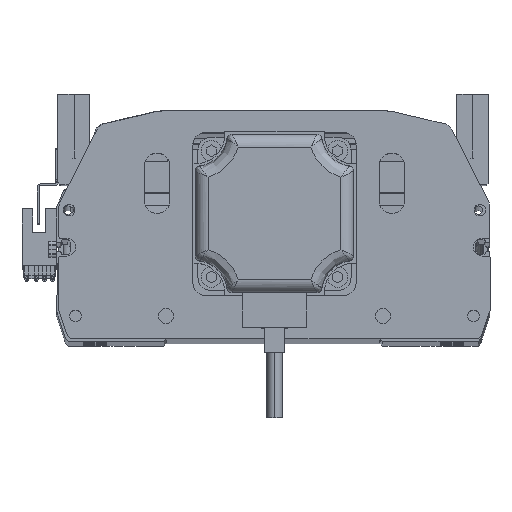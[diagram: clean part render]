
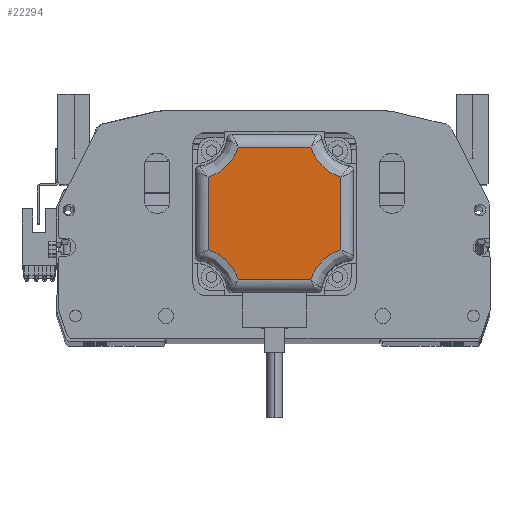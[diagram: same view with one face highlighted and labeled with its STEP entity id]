
A CAD part, top view. The second image highlights one B-rep face of the part: STEP entity #22294.
In plain terms, the highlighted planar face has unit normal (0, 0, 1) as drawn and (0, 0, -1) by its records, which use the part's own axes.
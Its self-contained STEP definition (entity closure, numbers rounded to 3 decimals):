
#265 =( BOUNDED_CURVE ( )  B_SPLINE_CURVE ( 3, ( #33113, #40881, #17793, #40548 ),
 .UNSPECIFIED., .F., .T. ) 
 B_SPLINE_CURVE_WITH_KNOTS ( ( 4, 4 ),
 ( 0., 1. ),
 .UNSPECIFIED. ) 
 CURVE ( )  GEOMETRIC_REPRESENTATION_ITEM ( )  RATIONAL_B_SPLINE_CURVE ( ( 1., 0.92, 0.92, 1. ) ) 
 REPRESENTATION_ITEM ( '' )  );
#589 = VERTEX_POINT ( 'NONE', #41060 ) ;
#2221 = CARTESIAN_POINT ( 'NONE',  ( 15.5, 26., -116.5 ) ) ;
#2481 = CARTESIAN_POINT ( 'NONE',  ( -26., 14.229, -116.5 ) ) ;
#2668 = CARTESIAN_POINT ( 'NONE',  ( -14.229, -26., -116.5 ) ) ;
#3090 = EDGE_CURVE ( 'NONE', #32536, #26443, #35548, .T. ) ;
#7077 = DIRECTION ( 'NONE',  ( 0., 0., 1. ) ) ;
#8601 = CARTESIAN_POINT ( 'NONE',  ( 26., -14.229, -116.5 ) ) ;
#8989 = FACE_OUTER_BOUND ( 'NONE', #40775, .T. ) ;
#9426 = EDGE_CURVE ( 'NONE', #27892, #43716, #265, .T. ) ;
#10394 = CARTESIAN_POINT ( 'NONE',  ( -26., -14.229, -116.5 ) ) ;
#10414 = ORIENTED_EDGE ( 'NONE', *, *, #28077, .F. ) ;
#10837 = EDGE_CURVE ( 'NONE', #26443, #27892, #33948, .T. ) ;
#11767 = CARTESIAN_POINT ( 'NONE',  ( -14.229, 26., -116.5 ) ) ;
#11972 = CARTESIAN_POINT ( 'NONE',  ( -26., 15.5, -116.5 ) ) ;
#12657 =( BOUNDED_CURVE ( )  B_SPLINE_CURVE ( 3, ( #14603, #49695, #26597, #26278 ),
 .UNSPECIFIED., .F., .T. ) 
 B_SPLINE_CURVE_WITH_KNOTS ( ( 4, 4 ),
 ( 0., 1. ),
 .UNSPECIFIED. ) 
 CURVE ( )  GEOMETRIC_REPRESENTATION_ITEM ( )  RATIONAL_B_SPLINE_CURVE ( ( 1., 0.92, 0.92, 1. ) ) 
 REPRESENTATION_ITEM ( '' )  );
#13349 = CARTESIAN_POINT ( 'NONE',  ( -15.5, -26., -116.5 ) ) ;
#14164 = LINE ( 'NONE', #48312, #44368 ) ;
#14603 = CARTESIAN_POINT ( 'NONE',  ( 26., 14.229, -116.5 ) ) ;
#15497 = CARTESIAN_POINT ( 'NONE',  ( -15.953, 20.219, -116.5 ) ) ;
#16892 = CARTESIAN_POINT ( 'NONE',  ( 15.953, -20.219, -116.5 ) ) ;
#17772 = LINE ( 'NONE', #2221, #37074 ) ;
#17793 = CARTESIAN_POINT ( 'NONE',  ( -15.953, -20.219, -116.5 ) ) ;
#18280 = PLANE ( 'NONE',  #27371 ) ;
#18583 = EDGE_CURVE ( 'NONE', #43716, #35929, #25722, .T. ) ;
#20074 = ORIENTED_EDGE ( 'NONE', *, *, #9426, .F. ) ;
#21138 = DIRECTION ( 'NONE',  ( 1., 0., 0. ) ) ;
#22200 = CARTESIAN_POINT ( 'NONE',  ( 26., 14.229, -116.5 ) ) ;
#22294 = ADVANCED_FACE ( 'NONE', ( #8989 ), #18280, .F. ) ;
#24179 = CARTESIAN_POINT ( 'NONE',  ( -14.229, 26., -116.5 ) ) ;
#25331 = EDGE_CURVE ( 'NONE', #589, #31363, #14164, .T. ) ;
#25722 = LINE ( 'NONE', #13349, #49838 ) ;
#25733 = ORIENTED_EDGE ( 'NONE', *, *, #18583, .F. ) ;
#25738 = DIRECTION ( 'NONE',  ( 0., 1., 0. ) ) ;
#26278 = CARTESIAN_POINT ( 'NONE',  ( 14.229, 26., -116.5 ) ) ;
#26443 = VERTEX_POINT ( 'NONE', #2481 ) ;
#26597 = CARTESIAN_POINT ( 'NONE',  ( 15.953, 20.219, -116.5 ) ) ;
#26817 = VERTEX_POINT ( 'NONE', #48168 ) ;
#27371 = AXIS2_PLACEMENT_3D ( 'NONE', #49441, #7077, #49290 ) ;
#27835 = ORIENTED_EDGE ( 'NONE', *, *, #3090, .F. ) ;
#27892 = VERTEX_POINT ( 'NONE', #10394 ) ;
#28077 = EDGE_CURVE ( 'NONE', #31363, #26817, #12657, .T. ) ;
#29074 = ORIENTED_EDGE ( 'NONE', *, *, #10837, .F. ) ;
#30053 = ORIENTED_EDGE ( 'NONE', *, *, #25331, .F. ) ;
#30146 = ORIENTED_EDGE ( 'NONE', *, *, #38976, .F. ) ;
#31363 = VERTEX_POINT ( 'NONE', #22200 ) ;
#31538 = DIRECTION ( 'NONE',  ( 0., -1., 0. ) ) ;
#31731 = CARTESIAN_POINT ( 'NONE',  ( 20.219, -15.953, -116.5 ) ) ;
#32416 =( BOUNDED_CURVE ( )  B_SPLINE_CURVE ( 3, ( #40024, #16892, #31731, #8601 ),
 .UNSPECIFIED., .F., .T. ) 
 B_SPLINE_CURVE_WITH_KNOTS ( ( 4, 4 ),
 ( 0., 1. ),
 .UNSPECIFIED. ) 
 CURVE ( )  GEOMETRIC_REPRESENTATION_ITEM ( )  RATIONAL_B_SPLINE_CURVE ( ( 1., 0.92, 0.92, 1. ) ) 
 REPRESENTATION_ITEM ( '' )  );
#32536 = VERTEX_POINT ( 'NONE', #24179 ) ;
#33101 = DIRECTION ( 'NONE',  ( -1., 0., 0. ) ) ;
#33113 = CARTESIAN_POINT ( 'NONE',  ( -26., -14.229, -116.5 ) ) ;
#33703 = EDGE_CURVE ( 'NONE', #35929, #589, #32416, .T. ) ;
#33948 = LINE ( 'NONE', #11972, #43004 ) ;
#35548 =( BOUNDED_CURVE ( )  B_SPLINE_CURVE ( 3, ( #11767, #15497, #42668, #38977 ),
 .UNSPECIFIED., .F., .F. ) 
 B_SPLINE_CURVE_WITH_KNOTS ( ( 4, 4 ),
 ( 0., 1. ),
 .UNSPECIFIED. ) 
 CURVE ( )  GEOMETRIC_REPRESENTATION_ITEM ( )  RATIONAL_B_SPLINE_CURVE ( ( 1., 0.92, 0.92, 1. ) ) 
 REPRESENTATION_ITEM ( '' )  );
#35929 = VERTEX_POINT ( 'NONE', #36620 ) ;
#36620 = CARTESIAN_POINT ( 'NONE',  ( 14.229, -26., -116.5 ) ) ;
#37074 = VECTOR ( 'NONE', #33101, 1000. ) ;
#38054 = ORIENTED_EDGE ( 'NONE', *, *, #33703, .F. ) ;
#38976 = EDGE_CURVE ( 'NONE', #26817, #32536, #17772, .T. ) ;
#38977 = CARTESIAN_POINT ( 'NONE',  ( -26., 14.229, -116.5 ) ) ;
#40024 = CARTESIAN_POINT ( 'NONE',  ( 14.229, -26., -116.5 ) ) ;
#40548 = CARTESIAN_POINT ( 'NONE',  ( -14.229, -26., -116.5 ) ) ;
#40775 = EDGE_LOOP ( 'NONE', ( #27835, #30146, #10414, #30053, #38054, #25733, #20074, #29074 ) ) ;
#40881 = CARTESIAN_POINT ( 'NONE',  ( -20.219, -15.953, -116.5 ) ) ;
#41060 = CARTESIAN_POINT ( 'NONE',  ( 26., -14.229, -116.5 ) ) ;
#42668 = CARTESIAN_POINT ( 'NONE',  ( -20.219, 15.953, -116.5 ) ) ;
#43004 = VECTOR ( 'NONE', #31538, 1000. ) ;
#43716 = VERTEX_POINT ( 'NONE', #2668 ) ;
#44368 = VECTOR ( 'NONE', #25738, 1000. ) ;
#48168 = CARTESIAN_POINT ( 'NONE',  ( 14.229, 26., -116.5 ) ) ;
#48312 = CARTESIAN_POINT ( 'NONE',  ( 26., -15.5, -116.5 ) ) ;
#49290 = DIRECTION ( 'NONE',  ( 1., 0., 0. ) ) ;
#49441 = CARTESIAN_POINT ( 'NONE',  ( 0., 0., -116.5 ) ) ;
#49695 = CARTESIAN_POINT ( 'NONE',  ( 20.219, 15.953, -116.5 ) ) ;
#49838 = VECTOR ( 'NONE', #21138, 1000. ) ;
